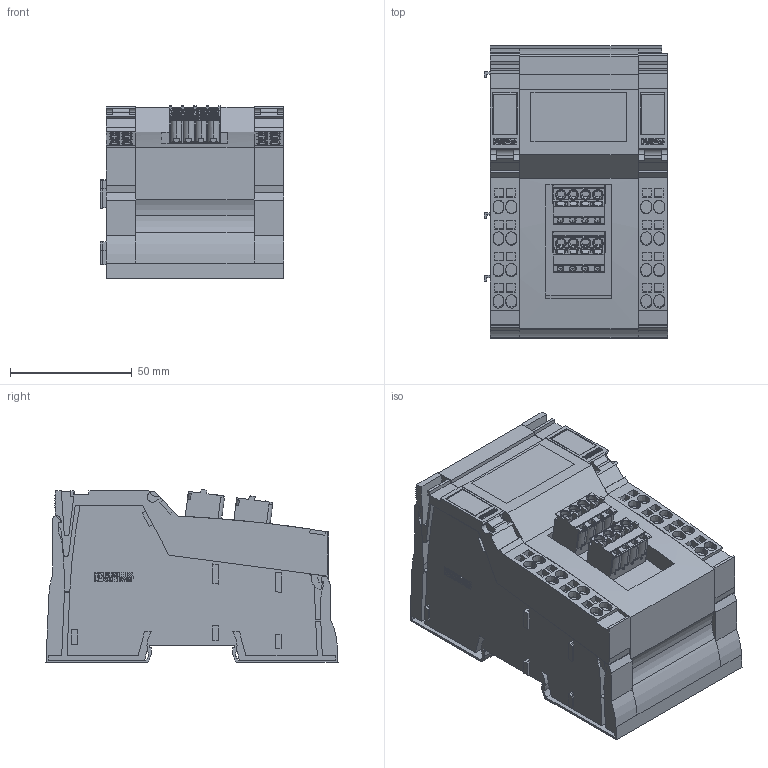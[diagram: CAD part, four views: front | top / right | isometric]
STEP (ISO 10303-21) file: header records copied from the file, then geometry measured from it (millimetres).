
FILE_DESCRIPTION(('CoCreate Modeling STEP Export'),'2;1');
FILE_NAME('00537564.stp','2009-12-15T21:00:15',(''),(''),'CoCreate Modeling STEP processor for AP214 (Solid Model)','CoCreate Modeling 16.00A 16-Aug-2008 (C) Parametric Technology GmbH','');
FILE_SCHEMA(('AUTOMOTIVE_DESIGN { 1 0 10303 214 1 1 1 1 }'));
Length unit declared in the file: millimetre
Products named in the file (4): IB_IL_24_(P)SDOR_4; IB_IL_SCN_8.1; FKCS_2.5_4_ST_5.08; IB_IL_24_(P)SDOR_4_PAC_KK
Assembly tree (5 placements, depth 2):
  IB_IL_24_(P)SDOR_4_PAC_KK
    FKCS_2.5_4_ST_5.08  x2
    IB_IL_SCN_8.1  x2
    IB_IL_24_(P)SDOR_4
Bounding box: 75.3 x 120 x 71.03 mm (x, y, z)
Volume: 486581.3 mm3; surface area: 81503.2 mm2
Topology: 5 solids, 5 shells, 2339 faces, 6157 edges, 4024 vertices
Faces by surface type: plane 1714, cylinder 410, extrusion 119, sphere 48, cone 32, torus 16
Entity records: 63201 total; most frequent: CARTESIAN_POINT 13945, ORIENTED_EDGE 8122, DIRECTION 6817, EDGE_CURVE 4061, VECTOR 3303, LINE 3229, VERTEX_POINT 2662, AXIS2_PLACEMENT_3D 1757
